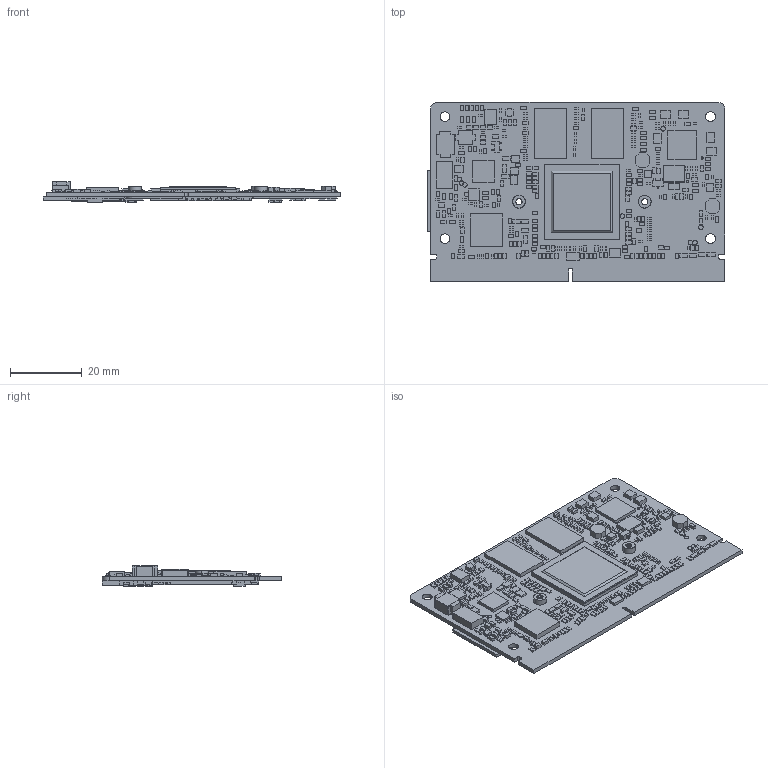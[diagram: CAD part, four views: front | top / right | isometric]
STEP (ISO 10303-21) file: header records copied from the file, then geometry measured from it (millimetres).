
FILE_DESCRIPTION((''),'2;1');
FILE_NAME('00-SMA-IMX6_ASM','2016-04-22T',('kobe_chang'),(''),'CREO PARAMETRIC BY PTC INC, 2015080','CREO PARAMETRIC BY PTC INC, 2015080','');
FILE_SCHEMA(('CONFIG_CONTROL_DESIGN','GEOMETRIC_VALIDATION_PROPERTIES_MIM'));
Products named in the file (48): SMA-IMX6_PCB; TOP-0612; BOT-0612; SMA-IMX6_A0; E193A0103X0R; CPU-DUAL_QUAD_SIZE; DDR; XS-2-32X15-H0_75; A-C0402; SC70_6P; L0805; A-DFN_14P_20_158X118_6TPV6; A-R0402; A-L_2P_197_205X193_H118; TPAD_020; A-R0402-SHORT; A-L_2P_130_157X157_H47; A-SOD-123_H49; A-8P4R04; A-L_2P_106_106X87_H47; SOT-23_5P; A-BGA_169P_20_709X551_H38; A-XQFN_8P_16_55X47_H20; A-FPCCON_6P_20_CSF-2382; A-SOIC_8P_26_118X252; A-SON_22P_20_248X197; R0805; 0603_IMX6; DIODE_2P_83_67X49; XTAL_4P_78_98X83; SOT-143; OSC_4P_73_98X79; R0603; R0402; TP28; M-C0201; C0603; SOD-323; C_2P_244_287X177; C0402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
Assembly tree (821 placements, depth 3):
  00-SMA-IMX6_ASM
    SMA-IMX6_PCB
    TOP-0612
    BOT-0612
    SMA-IMX6_A0
    E193A0103X0R  x2
    CPU-DUAL_QUAD_SIZE
    DDR  x4
    SMA-IMX6_E1907A96107RO_C01-2015_ASM
      XS-2-32X15-H0_75
      A-C0402
      SC70_6P
      L0805
      A-DFN_14P_20_158X118_6TPV6
      A-R0402  x2
      A-L_2P_197_205X193_H118
      TPAD_020  x2
      A-R0402-SHORT  x76
      A-L_2P_130_157X157_H47
      A-SOD-123_H49
      A-8P4R04  x3
      A-L_2P_106_106X87_H47  x5
      SOT-23_5P  x2
      A-BGA_169P_20_709X551_H38
      A-XQFN_8P_16_55X47_H20  x3
      A-FPCCON_6P_20_CSF-2382
      A-SOIC_8P_26_118X252
      A-SON_22P_20_248X197
      R0805  x2
      0603_IMX6  x8
      DIODE_2P_83_67X49
      XTAL_4P_78_98X83
      SOT-143
      OSC_4P_73_98X79
      R0603  x10
      R0402  x238
      TP28  x25
      M-C0201  x75
      C0603  x53
      SOD-323
      C_2P_244_287X177
      C0402  x239
      L0603  x17
      M-R0201  x11
      SOT-23  x4
      XTAL_4P_77_126X98
      A-QFN_6P_26_79X79_TP51X32  x2
      8P4R04  x13
Bounding box: 82.93 x 50 x 5.64 mm (x, y, z)
Volume: 7808.5 mm3; surface area: 16480 mm2
Topology: 817 solids, 817 shells, 5159 faces, 10540 edges, 7026 vertices
Faces by surface type: plane 5048, cylinder 103, bspline 8
Entity records: 29980 total; most frequent: CARTESIAN_POINT 6065, DIRECTION 5363, AXIS2_PLACEMENT_3D 2186, ORIENTED_EDGE 2152, PROPERTY_DEFINITION 1125, REPRESENTATION 1082, PROPERTY_DEFINITION_REPRESENTATION 1082, EDGE_CURVE 1076
